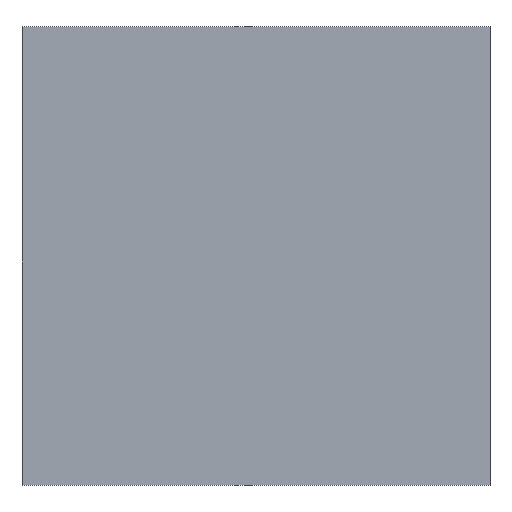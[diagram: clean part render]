
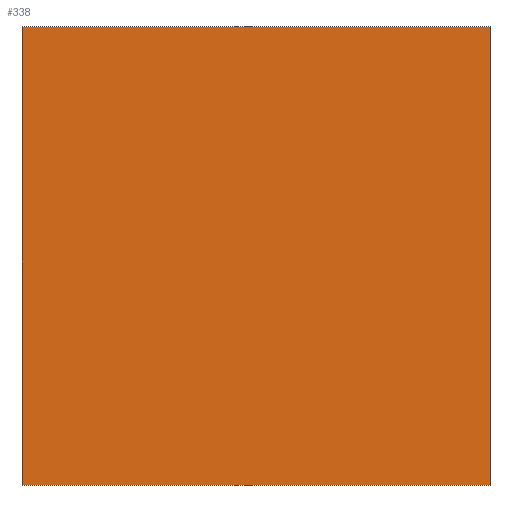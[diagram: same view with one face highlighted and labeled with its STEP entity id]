
A CAD part, top view. The second image highlights one B-rep face of the part: STEP entity #338.
In plain terms, the highlighted planar face has unit normal (0, 0, 1).
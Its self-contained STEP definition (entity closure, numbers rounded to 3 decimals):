
#24 = VERTEX_POINT('',#25);
#25 = CARTESIAN_POINT('',(75.,-325.,-24.));
#32 = PLANE('',#33);
#33 = AXIS2_PLACEMENT_3D('',#34,#35,#36);
#34 = CARTESIAN_POINT('',(75.,-325.,-27.));
#35 = DIRECTION('',(1.,0.,-0.));
#36 = DIRECTION('',(0.,0.,1.));
#44 = PLANE('',#45);
#45 = AXIS2_PLACEMENT_3D('',#46,#47,#48);
#46 = CARTESIAN_POINT('',(75.,-325.,-27.));
#47 = DIRECTION('',(-0.,1.,0.));
#48 = DIRECTION('',(0.,0.,1.));
#85 = VERTEX_POINT('',#86);
#86 = CARTESIAN_POINT('',(75.,-85.,-24.));
#100 = PLANE('',#101);
#101 = AXIS2_PLACEMENT_3D('',#102,#103,#104);
#102 = CARTESIAN_POINT('',(75.,-85.,-27.));
#103 = DIRECTION('',(-0.,1.,0.));
#104 = DIRECTION('',(0.,0.,1.));
#112 = EDGE_CURVE('',#24,#85,#113,.T.);
#113 = SURFACE_CURVE('',#114,(#118,#125),.PCURVE_S1.);
#114 = LINE('',#115,#116);
#115 = CARTESIAN_POINT('',(75.,-325.,-24.));
#116 = VECTOR('',#117,1.);
#117 = DIRECTION('',(-0.,1.,0.));
#118 = PCURVE('',#32,#119);
#119 = DEFINITIONAL_REPRESENTATION('',(#120),#124);
#120 = LINE('',#121,#122);
#121 = CARTESIAN_POINT('',(3.,0.));
#122 = VECTOR('',#123,1.);
#123 = DIRECTION('',(0.,-1.));
#124 = ( GEOMETRIC_REPRESENTATION_CONTEXT(2) 
PARAMETRIC_REPRESENTATION_CONTEXT() REPRESENTATION_CONTEXT('2D SPACE',''
  ) );
#125 = PCURVE('',#126,#131);
#126 = PLANE('',#127);
#127 = AXIS2_PLACEMENT_3D('',#128,#129,#130);
#128 = CARTESIAN_POINT('',(75.,-325.,-24.));
#129 = DIRECTION('',(0.,0.,1.));
#130 = DIRECTION('',(1.,0.,-0.));
#131 = DEFINITIONAL_REPRESENTATION('',(#132),#136);
#132 = LINE('',#133,#134);
#133 = CARTESIAN_POINT('',(0.,0.));
#134 = VECTOR('',#135,1.);
#135 = DIRECTION('',(0.,1.));
#136 = ( GEOMETRIC_REPRESENTATION_CONTEXT(2) 
PARAMETRIC_REPRESENTATION_CONTEXT() REPRESENTATION_CONTEXT('2D SPACE',''
  ) );
#144 = VERTEX_POINT('',#145);
#145 = CARTESIAN_POINT('',(320.,-325.,-24.));
#152 = PLANE('',#153);
#153 = AXIS2_PLACEMENT_3D('',#154,#155,#156);
#154 = CARTESIAN_POINT('',(320.,-325.,-27.));
#155 = DIRECTION('',(1.,0.,-0.));
#156 = DIRECTION('',(0.,0.,1.));
#195 = VERTEX_POINT('',#196);
#196 = CARTESIAN_POINT('',(320.,-85.,-24.));
#217 = EDGE_CURVE('',#144,#195,#218,.T.);
#218 = SURFACE_CURVE('',#219,(#223,#230),.PCURVE_S1.);
#219 = LINE('',#220,#221);
#220 = CARTESIAN_POINT('',(320.,-325.,-24.));
#221 = VECTOR('',#222,1.);
#222 = DIRECTION('',(-0.,1.,0.));
#223 = PCURVE('',#152,#224);
#224 = DEFINITIONAL_REPRESENTATION('',(#225),#229);
#225 = LINE('',#226,#227);
#226 = CARTESIAN_POINT('',(3.,0.));
#227 = VECTOR('',#228,1.);
#228 = DIRECTION('',(0.,-1.));
#229 = ( GEOMETRIC_REPRESENTATION_CONTEXT(2) 
PARAMETRIC_REPRESENTATION_CONTEXT() REPRESENTATION_CONTEXT('2D SPACE',''
  ) );
#230 = PCURVE('',#126,#231);
#231 = DEFINITIONAL_REPRESENTATION('',(#232),#236);
#232 = LINE('',#233,#234);
#233 = CARTESIAN_POINT('',(245.,0.));
#234 = VECTOR('',#235,1.);
#235 = DIRECTION('',(0.,1.));
#236 = ( GEOMETRIC_REPRESENTATION_CONTEXT(2) 
PARAMETRIC_REPRESENTATION_CONTEXT() REPRESENTATION_CONTEXT('2D SPACE',''
  ) );
#263 = EDGE_CURVE('',#24,#144,#264,.T.);
#264 = SURFACE_CURVE('',#265,(#269,#276),.PCURVE_S1.);
#265 = LINE('',#266,#267);
#266 = CARTESIAN_POINT('',(75.,-325.,-24.));
#267 = VECTOR('',#268,1.);
#268 = DIRECTION('',(1.,0.,-0.));
#269 = PCURVE('',#44,#270);
#270 = DEFINITIONAL_REPRESENTATION('',(#271),#275);
#271 = LINE('',#272,#273);
#272 = CARTESIAN_POINT('',(3.,0.));
#273 = VECTOR('',#274,1.);
#274 = DIRECTION('',(0.,1.));
#275 = ( GEOMETRIC_REPRESENTATION_CONTEXT(2) 
PARAMETRIC_REPRESENTATION_CONTEXT() REPRESENTATION_CONTEXT('2D SPACE',''
  ) );
#276 = PCURVE('',#126,#277);
#277 = DEFINITIONAL_REPRESENTATION('',(#278),#282);
#278 = LINE('',#279,#280);
#279 = CARTESIAN_POINT('',(0.,0.));
#280 = VECTOR('',#281,1.);
#281 = DIRECTION('',(1.,0.));
#282 = ( GEOMETRIC_REPRESENTATION_CONTEXT(2) 
PARAMETRIC_REPRESENTATION_CONTEXT() REPRESENTATION_CONTEXT('2D SPACE',''
  ) );
#310 = EDGE_CURVE('',#85,#195,#311,.T.);
#311 = SURFACE_CURVE('',#312,(#316,#323),.PCURVE_S1.);
#312 = LINE('',#313,#314);
#313 = CARTESIAN_POINT('',(75.,-85.,-24.));
#314 = VECTOR('',#315,1.);
#315 = DIRECTION('',(1.,0.,-0.));
#316 = PCURVE('',#100,#317);
#317 = DEFINITIONAL_REPRESENTATION('',(#318),#322);
#318 = LINE('',#319,#320);
#319 = CARTESIAN_POINT('',(3.,0.));
#320 = VECTOR('',#321,1.);
#321 = DIRECTION('',(0.,1.));
#322 = ( GEOMETRIC_REPRESENTATION_CONTEXT(2) 
PARAMETRIC_REPRESENTATION_CONTEXT() REPRESENTATION_CONTEXT('2D SPACE',''
  ) );
#323 = PCURVE('',#126,#324);
#324 = DEFINITIONAL_REPRESENTATION('',(#325),#329);
#325 = LINE('',#326,#327);
#326 = CARTESIAN_POINT('',(0.,240.));
#327 = VECTOR('',#328,1.);
#328 = DIRECTION('',(1.,0.));
#329 = ( GEOMETRIC_REPRESENTATION_CONTEXT(2) 
PARAMETRIC_REPRESENTATION_CONTEXT() REPRESENTATION_CONTEXT('2D SPACE',''
  ) );
#338 = ADVANCED_FACE('',(#339),#126,.T.);
#339 = FACE_BOUND('',#340,.T.);
#340 = EDGE_LOOP('',(#341,#342,#343,#344));
#341 = ORIENTED_EDGE('',*,*,#112,.F.);
#342 = ORIENTED_EDGE('',*,*,#263,.T.);
#343 = ORIENTED_EDGE('',*,*,#217,.T.);
#344 = ORIENTED_EDGE('',*,*,#310,.F.);
